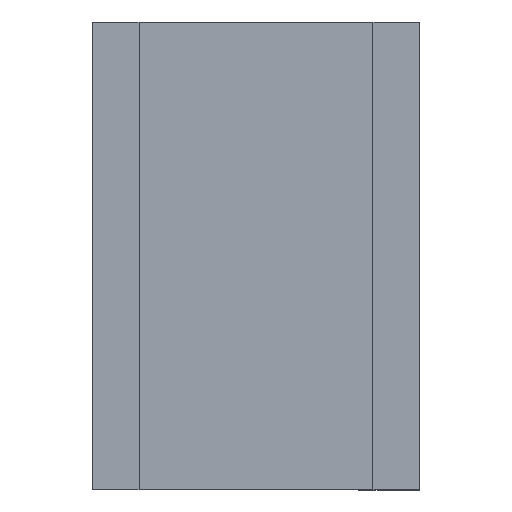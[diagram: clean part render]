
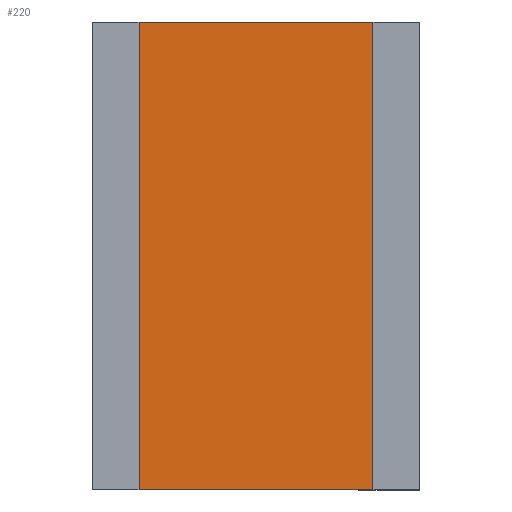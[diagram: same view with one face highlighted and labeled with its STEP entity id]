
A CAD part, front view. The second image highlights one B-rep face of the part: STEP entity #220.
In plain terms, the highlighted planar face has unit normal (0, -1, 0).
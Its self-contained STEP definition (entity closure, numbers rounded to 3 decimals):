
#220=ADVANCED_FACE('',(#435),#436,.T.);
#435=FACE_OUTER_BOUND('',#648,.T.);
#436=PLANE('',#649);
#648=EDGE_LOOP('',(#1193,#1194,#1195,#1196));
#649=AXIS2_PLACEMENT_3D('',#1197,#1198,#1199);
#1193=ORIENTED_EDGE('',*,*,#1466,.T.);
#1194=ORIENTED_EDGE('',*,*,#1467,.F.);
#1195=ORIENTED_EDGE('',*,*,#1468,.T.);
#1196=ORIENTED_EDGE('',*,*,#1463,.T.);
#1197=CARTESIAN_POINT('',(78.575,-119.095,-22.752));
#1198=DIRECTION('',(0.0,-1.0,0.0));
#1199=DIRECTION('',(1.0,0.0,0.0));
#1463=EDGE_CURVE('',#1802,#1800,#1803,.T.);
#1466=EDGE_CURVE('',#1800,#1806,#1807,.T.);
#1467=EDGE_CURVE('',#1808,#1806,#1809,.T.);
#1468=EDGE_CURVE('',#1808,#1802,#1810,.T.);
#1800=VERTEX_POINT('',#2258);
#1802=VERTEX_POINT('',#2261);
#1803=LINE('',#2262,#2263);
#1806=VERTEX_POINT('',#2267);
#1807=LINE('',#2268,#2269);
#1808=VERTEX_POINT('',#2270);
#1809=LINE('',#2271,#2272);
#1810=LINE('',#2273,#2274);
#2258=CARTESIAN_POINT('',(103.575,-119.095,77.248));
#2261=CARTESIAN_POINT('',(103.575,-119.095,-22.752));
#2262=CARTESIAN_POINT('',(103.575,-119.095,-22.752));
#2263=VECTOR('',#2531,10.0);
#2267=CARTESIAN_POINT('',(53.575,-119.095,77.248));
#2268=CARTESIAN_POINT('',(53.575,-119.095,77.248));
#2269=VECTOR('',#2533,10.0);
#2270=CARTESIAN_POINT('',(53.575,-119.095,-22.752));
#2271=CARTESIAN_POINT('',(53.575,-119.095,-22.752));
#2272=VECTOR('',#2534,10.0);
#2273=CARTESIAN_POINT('',(53.575,-119.095,-22.752));
#2274=VECTOR('',#2535,10.0);
#2531=DIRECTION('',(0.0,0.0,1.0));
#2533=DIRECTION('',(-1.0,-0.0,-0.0));
#2534=DIRECTION('',(0.0,0.0,1.0));
#2535=DIRECTION('',(1.0,0.0,0.0));
